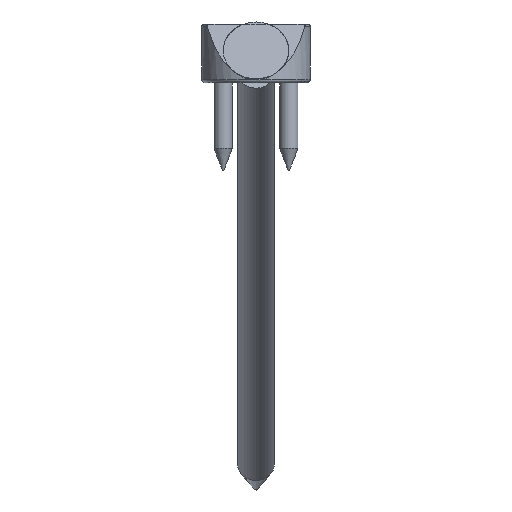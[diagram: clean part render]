
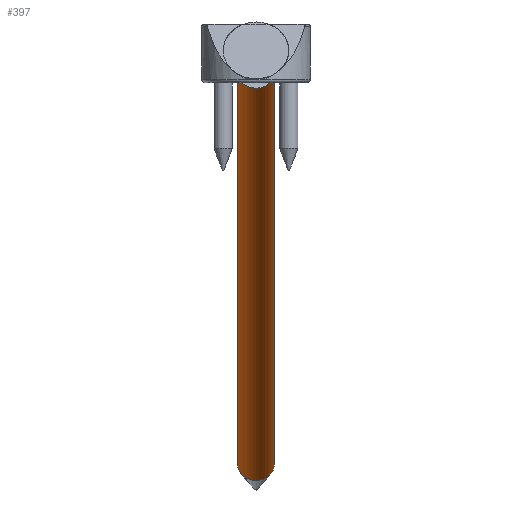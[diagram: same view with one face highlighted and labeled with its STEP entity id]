
A CAD part, front view. The second image highlights one B-rep face of the part: STEP entity #397.
In plain terms, the highlighted cylindrical face has radius 5 mm (diameter 10 mm), a full revolution.
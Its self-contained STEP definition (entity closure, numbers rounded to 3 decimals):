
#59=CYLINDRICAL_SURFACE('',#498,5.);
#151=ORIENTED_EDGE('',*,*,#195,.T.);
#152=ORIENTED_EDGE('',*,*,#194,.F.);
#194=EDGE_CURVE('',#228,#228,#257,.T.);
#195=EDGE_CURVE('',#229,#229,#258,.T.);
#228=VERTEX_POINT('',#774);
#229=VERTEX_POINT('',#777);
#257=CIRCLE('',#497,5.);
#258=CIRCLE('',#499,5.);
#306=EDGE_LOOP('',(#151));
#307=EDGE_LOOP('',(#152));
#357=FACE_BOUND('',#306,.T.);
#358=FACE_BOUND('',#307,.T.);
#397=ADVANCED_FACE('',(#357,#358),#59,.T.);
#497=AXIS2_PLACEMENT_3D('',#773,#624,#625);
#498=AXIS2_PLACEMENT_3D('',#775,#626,#627);
#499=AXIS2_PLACEMENT_3D('',#776,#628,#629);
#624=DIRECTION('',(0.,1.,0.));
#625=DIRECTION('',(0.,0.,1.));
#626=DIRECTION('',(0.,1.,0.));
#627=DIRECTION('',(0.,0.,1.));
#628=DIRECTION('',(0.,1.,0.));
#629=DIRECTION('',(0.,0.,1.));
#773=CARTESIAN_POINT('',(0.,42.,0.));
#774=CARTESIAN_POINT('',(0.,42.,5.));
#775=CARTESIAN_POINT('',(0.,54.,0.));
#776=CARTESIAN_POINT('',(0.,-173.,0.));
#777=CARTESIAN_POINT('',(0.,-173.,5.));
